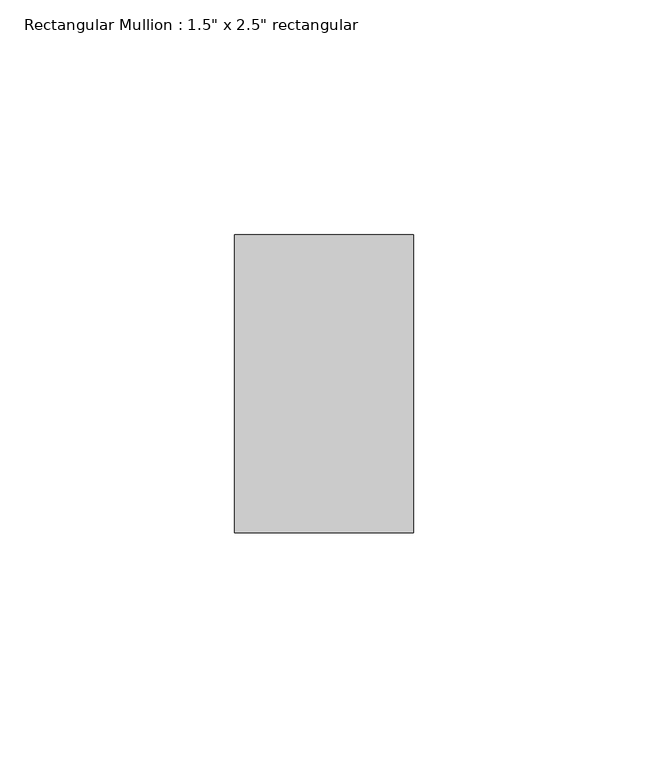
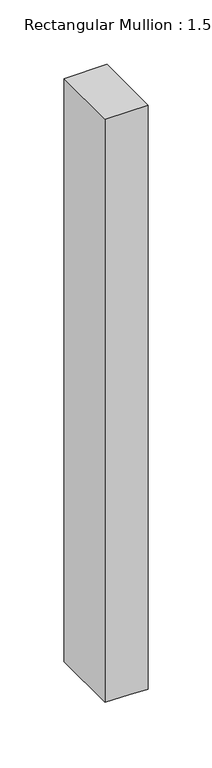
"""IFC4 building model written with IfcOpenShell, lengths in millimetres: member geometry."""

from ifc_helpers import new_model, si_unit, frame, origin, place, context, project, spatial, polyline, outline, extrude, source, transform, mapped, element, save


def member_2fb42f28(model_context):
    return source(origin(), model_context, "Body", "SweptSolid", [
        extrude(outline(polyline([(0.0, 19.05), (0.0, -19.05), (-551.6963497, -19.05), (-551.9846146, 2.2389473), (-552.943483, 19.05), (0.0, 19.05)])), frame((0.0, -31.75, 0.0), z_axis=(0.0, 1.0, 0.0), x_axis=(0.0, 0.0, 1.0)), (0.0, 0.0, 1.0), 63.5),
    ])


if __name__ == "__main__":
    model = new_model("IFC4")
    model_context = context("Model", 3, world=origin())
    ifc_project = project(units=[si_unit("LENGTHUNIT", "METRE", prefix="MILLI")], contexts=[model_context])
    site = spatial("IfcSite", under=ifc_project)
    building = spatial("IfcBuilding", under=site)
    placement = place(None, origin())
    member_shape = member_2fb42f28(model_context)
    element("IfcMember", 1, ObjectType="Rectangular Mullion : 1.5\" x 2.5\" rectangular", at=placement, inside=building, context=model_context, shape_type="MappedRepresentation", body=[
        mapped(member_shape, transform((0.0, 0.0, 0.0), x_axis=(1.0, 0.0, 0.0), y_axis=(0.0, 1.0, 0.0), z_axis=(0.0, 0.0, 1.0))),
    ])
    save(model, "model.ifc")
